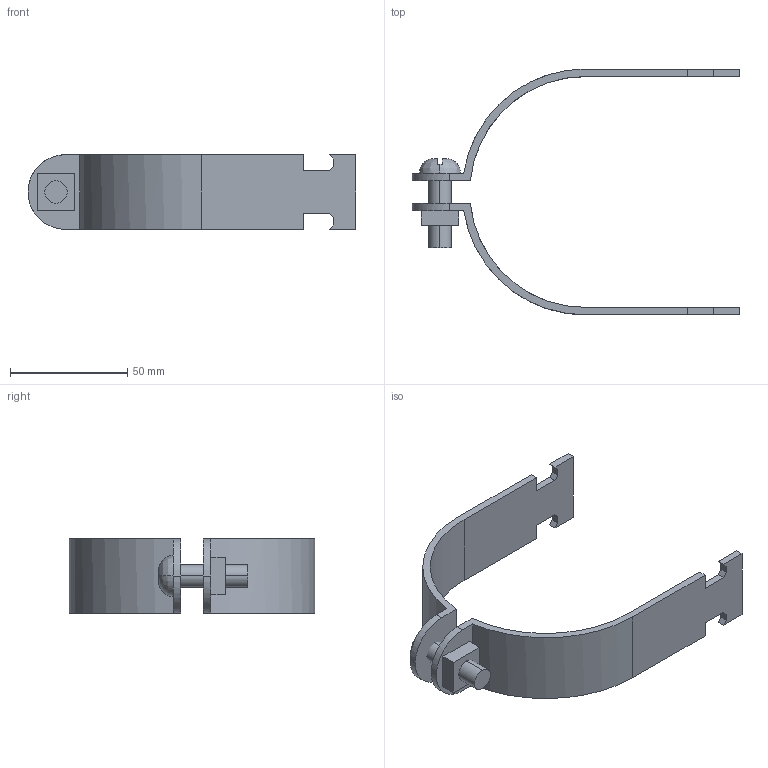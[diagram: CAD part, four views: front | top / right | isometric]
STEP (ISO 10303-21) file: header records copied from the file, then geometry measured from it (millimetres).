
FILE_DESCRIPTION(('TurboCAD Mac Pro'),'Build 980');
FILE_NAME('P2053.stp',' ',(''),(''),'ACIS Interop','IMSI','TurboCAD Mac Pro BY IMSI, INCORPORATED');
FILE_SCHEMA(('automotive_design'));
Length unit declared in the file: inch
Products named in the file (5): 1; 2; 3; 4; 5
Bounding box: 139.7 x 104.73 x 31.74 mm (x, y, z)
Volume: 35508.7 mm3; surface area: 24756.3 mm2
Topology: 4 solids, 4 shells, 71 faces, 186 edges, 124 vertices
Faces by surface type: plane 51, bspline 20
Entity records: 3435 total; most frequent: CARTESIAN_POINT 1034, ORIENTED_EDGE 372, DIRECTION 258, EDGE_CURVE 186, LINE 138, VECTOR 138, VERTEX_POINT 124, STYLED_ITEM 87
